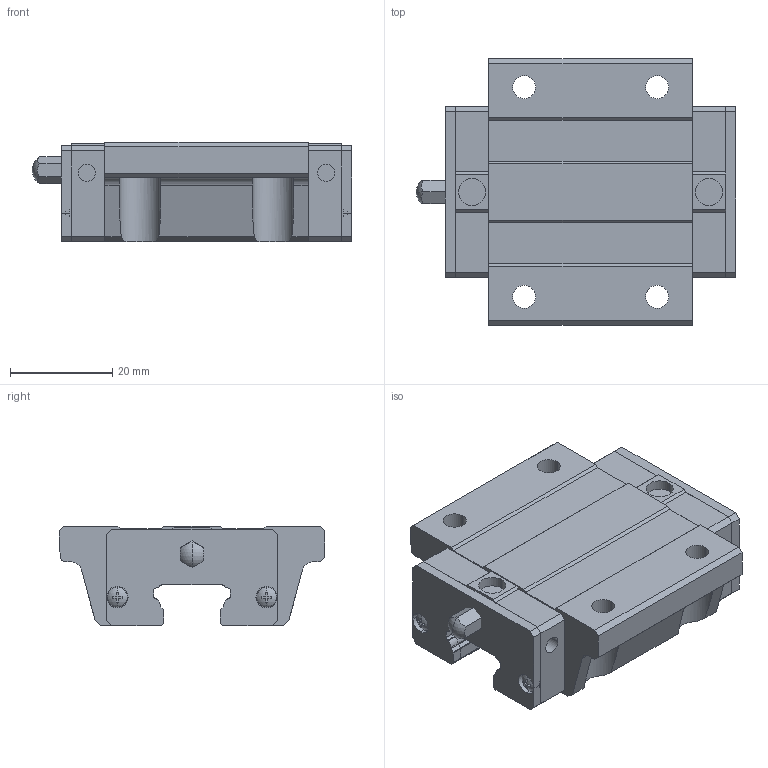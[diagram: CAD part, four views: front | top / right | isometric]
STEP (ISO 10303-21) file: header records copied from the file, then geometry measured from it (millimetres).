
FILE_DESCRIPTION(('starvars output'),'2;1');
FILE_NAME('cv20190626223739000042181.stp','22:37:39 2019/06/26',( 'Thomas Industrial Network Germany GmbH'),( 'Thomas Industrial Network Germany GmbH'),'unknown preprocess','ACIS' ,'unknown authorization');
FILE_SCHEMA(('CONFIG_CONTROL_DESIGN {UNKNOWN IMPLEMENTATION LEVEL}'));
Length unit declared in the file: millimetre
Products named in the file (10): PRODUCT_ID_2; PRODUCT_ID_3; PRODUCT_ID_4; PRODUCT_ID_5; PRODUCT_ID_6; PRODUCT_ID_7; PRODUCT_ID_8; PRODUCT_ID_9; PRODUCT_ID_10; PRODUCT_ID_11
Bounding box: 62.5 x 52 x 19.5 mm (x, y, z)
Volume: 37457.4 mm3; surface area: 15229.8 mm2
Topology: 10 solids, 10 shells, 368 faces, 1005 edges, 664 vertices
Faces by surface type: plane 213, cylinder 137, sphere 10, cone 8
Entity records: 11778 total; most frequent: ORIENTED_EDGE 2018, CARTESIAN_POINT 1853, DIRECTION 1792, EDGE_CURVE 1005, VERTEX_POINT 664, AXIS2_PLACEMENT_3D 603, VECTOR 586, LINE 586
